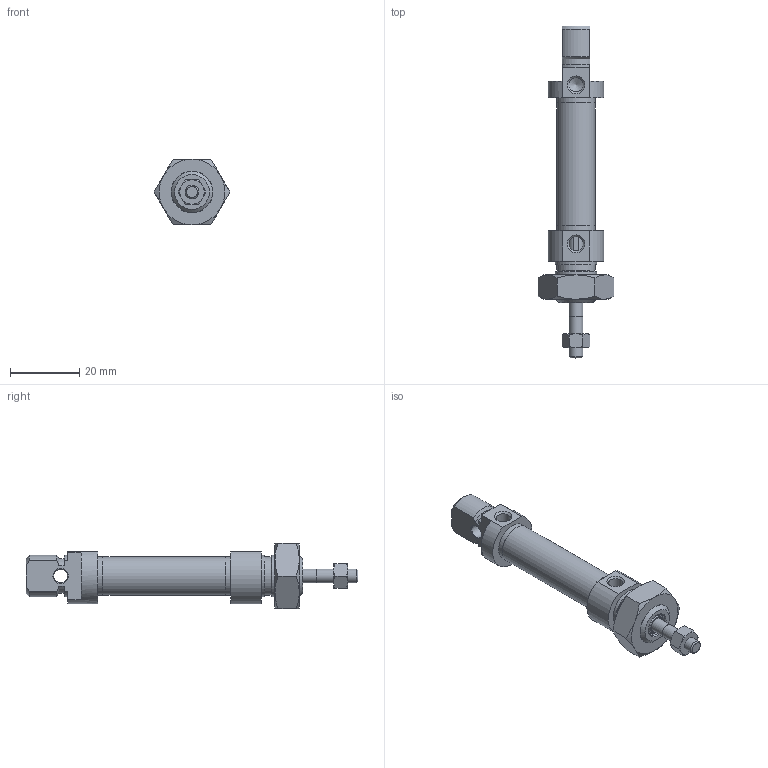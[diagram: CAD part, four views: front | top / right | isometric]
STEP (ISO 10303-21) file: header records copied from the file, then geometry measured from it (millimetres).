
FILE_DESCRIPTION(/* description */ ('Unknown'),/* implementation_level */ '2;1');
FILE_NAME(/* name */ 'RIM 10_10',/* time_stamp */ '2024-08-26T13:19:01+02:00',/* author */ ('Unknown'),/* organization */ ('HAFNER Pneumatika Kft.'),/* preprocessor_version */ 'ST-DEVELOPER v18.102',/* originating_system */ 'Solid Edge',/* authorisation */ 'Unknown');
FILE_SCHEMA (('AUTOMOTIVE_DESIGN {1 0 10303 214 3 1 1}'));
Length unit declared in the file: millimetre
Products named in the file (7): RIM 10_10; Kit_2; Profilrohr; Kit_1; Kolbenstange; Mutter_1; Mutter_2
Assembly tree (6 placements, depth 2):
  RIM 10_10
    Kit_2
    Profilrohr
    Kit_1
    Kolbenstange
    Mutter_1
    Mutter_2
Bounding box: 21.94 x 96 x 19 mm (x, y, z)
Volume: 10232.5 mm3; surface area: 8582.6 mm2
Topology: 6 solids, 6 shells, 141 faces, 294 edges, 181 vertices
Faces by surface type: cone 50, plane 50, cylinder 34, torus 7
Full cylindrical faces by diameter (mm): 3.242 x1, 4 x3, 4.12 x1, 4.134 x3, 4.426 x1, 4.7 x1, 6.5 x1, 6.6 x1, 6.7 x1, 8.1 x1, 8.2 x1, 10 x2, 10.647 x1, 11.2 x3, 11.27 x1, 12 x2
Entity records: 4449 total; most frequent: CARTESIAN_POINT 689, DIRECTION 590, ORIENTED_EDGE 460, AXIS2_PLACEMENT_3D 270, EDGE_CURVE 230, FACE_BOUND 219, EDGE_LOOP 218, VERTEX_POINT 171
